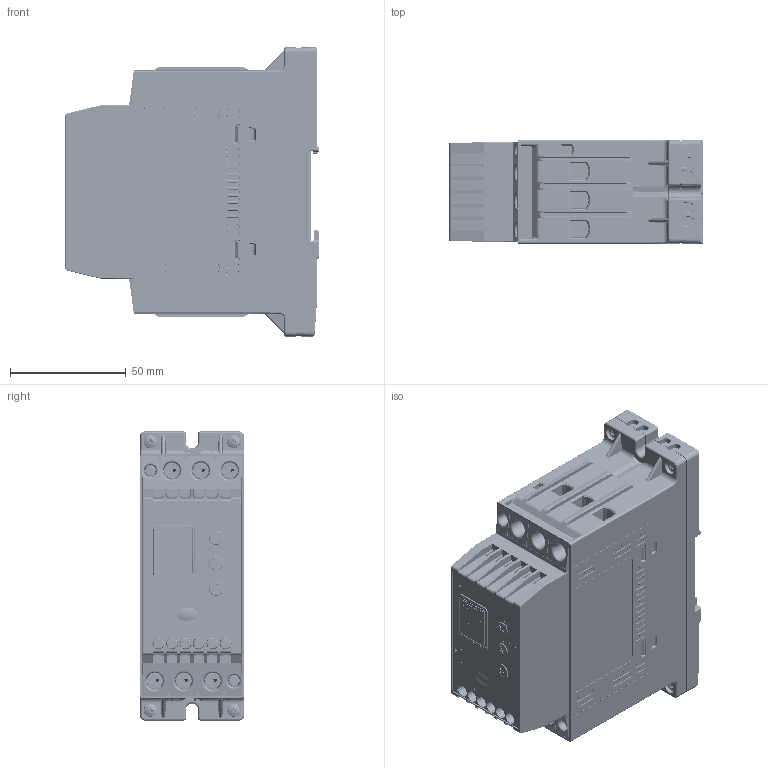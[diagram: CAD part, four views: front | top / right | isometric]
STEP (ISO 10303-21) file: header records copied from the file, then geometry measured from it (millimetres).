
FILE_DESCRIPTION((''),'2;1');
FILE_NAME('CGI1329-00-3D.stp','2017-02-06T14:54:14',(''),(''),'Mechanical Desktop 2011','Mechanical Desktop 2011',', , ');
FILE_SCHEMA(('CONFIG_CONTROL_DESIGN'));
Length unit declared in the file: millimetre
Products named in the file (2): Product; CGI1329-00-3D
Assembly tree (1 placements, depth 2):
  Product
    CGI1329-00-3D
Bounding box: 110.04 x 45.01 x 125 mm (x, y, z)
Volume: 446010.2 mm3; surface area: 71564.5 mm2
Topology: 156 solids, 156 shells, 32936 faces, 96601 edges, 64134 vertices
Faces by surface type: plane 30410, bspline 1762, cylinder 540, cone 115, torus 79, sphere 30
Entity records: 1126842 total; most frequent: CARTESIAN_POINT 260622, ORIENTED_EDGE 193080, DIRECTION 159222, EDGE_CURVE 96540, VECTOR 90112, LINE 90112, VERTEX_POINT 64116, AXIS2_PLACEMENT_3D 34555
